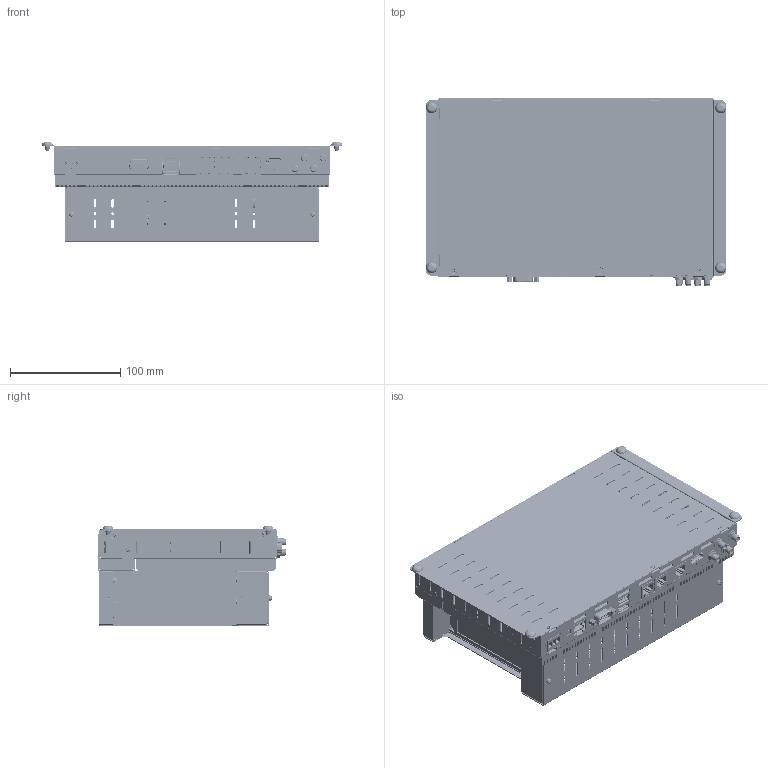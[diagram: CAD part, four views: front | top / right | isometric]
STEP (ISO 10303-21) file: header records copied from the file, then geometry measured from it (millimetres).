
FILE_DESCRIPTION((''),'2;1');
FILE_NAME('EC4C-100-Z','2026-06-02T13:14:59',('gijyu181'),(''),'CREO PARAMETRIC BY PTC INC, 2018050','CREO PARAMETRIC BY PTC INC, 2018050','');
FILE_SCHEMA(('CONFIG_CONTROL_DESIGN','SHAPE_APPEARANCE_LAYERS_GROUPS'));
Products named in the file (1): EC4C-100-Z
Bounding box: 272 x 170.54 x 90.55 mm (x, y, z)
Volume: 691350.8 mm3; surface area: 760328.1 mm2
Topology: 27 solids, 94 shells, 33992 faces, 98867 edges, 65336 vertices
Faces by surface type: plane 23679, cylinder 7938, extrusion 1393, cone 354, torus 331, bspline 188, sphere 97, revolution 12
Entity records: 1319273 total; most frequent: CARTESIAN_POINT 227749, ORIENTED_EDGE 196593, DIRECTION 177801, EDGE_CURVE 98781, VECTOR 78661, LINE 77268, VERTEX_POINT 65337, AXIS2_PLACEMENT_3D 49564
